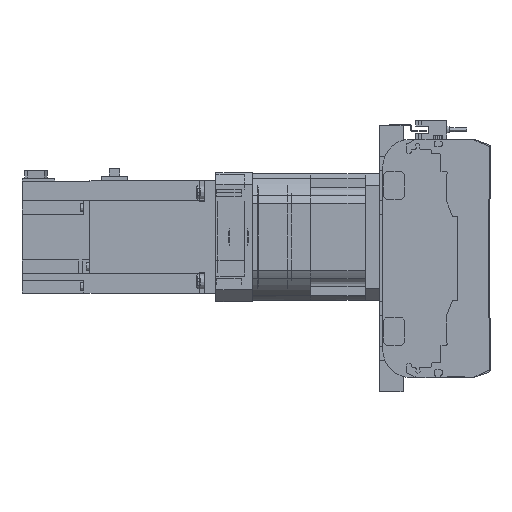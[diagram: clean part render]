
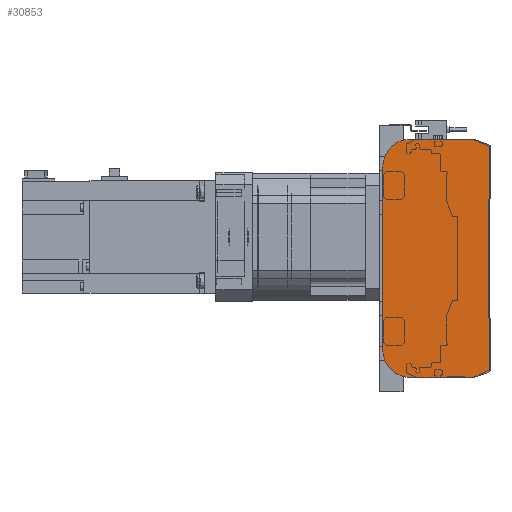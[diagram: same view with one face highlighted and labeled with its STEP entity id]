
A CAD part, left-side view. The second image highlights one B-rep face of the part: STEP entity #30853.
In plain terms, the highlighted planar face has unit normal (-1, 0, 0).
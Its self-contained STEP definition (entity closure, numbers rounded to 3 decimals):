
#2513=CIRCLE('',#33725,2.);
#2514=CIRCLE('',#33728,2.);
#2515=CIRCLE('',#33731,20.);
#2516=CIRCLE('',#33734,20.);
#8782=ORIENTED_EDGE('',*,*,#15015,.F.);
#8783=ORIENTED_EDGE('',*,*,#15093,.F.);
#8784=ORIENTED_EDGE('',*,*,#15091,.F.);
#8785=ORIENTED_EDGE('',*,*,#15089,.F.);
#8786=ORIENTED_EDGE('',*,*,#14732,.F.);
#8787=ORIENTED_EDGE('',*,*,#15088,.F.);
#8788=ORIENTED_EDGE('',*,*,#15086,.F.);
#8789=ORIENTED_EDGE('',*,*,#15084,.F.);
#8790=ORIENTED_EDGE('',*,*,#15082,.F.);
#8791=ORIENTED_EDGE('',*,*,#15080,.F.);
#14732=EDGE_CURVE('',#18154,#18155,#20732,.T.);
#15015=EDGE_CURVE('',#18226,#18227,#20846,.T.);
#15080=EDGE_CURVE('',#18227,#18268,#20891,.T.);
#15082=EDGE_CURVE('',#18268,#18269,#2513,.T.);
#15084=EDGE_CURVE('',#18269,#18270,#20894,.T.);
#15086=EDGE_CURVE('',#18270,#18271,#2514,.T.);
#15088=EDGE_CURVE('',#18271,#18154,#20897,.T.);
#15089=EDGE_CURVE('',#18155,#18272,#2515,.T.);
#15091=EDGE_CURVE('',#18272,#18273,#20899,.T.);
#15093=EDGE_CURVE('',#18273,#18226,#2516,.T.);
#18154=VERTEX_POINT('',#52602);
#18155=VERTEX_POINT('',#52604);
#18226=VERTEX_POINT('',#53010);
#18227=VERTEX_POINT('',#53012);
#18268=VERTEX_POINT('',#53142);
#18269=VERTEX_POINT('',#53146);
#18270=VERTEX_POINT('',#53150);
#18271=VERTEX_POINT('',#53154);
#18272=VERTEX_POINT('',#53160);
#18273=VERTEX_POINT('',#53164);
#20732=LINE('',#52603,#23177);
#20846=LINE('',#53011,#23291);
#20891=LINE('',#53141,#23336);
#20894=LINE('',#53149,#23339);
#20897=LINE('',#53157,#23342);
#20899=LINE('',#53163,#23344);
#23177=VECTOR('',#40751,1000.);
#23291=VECTOR('',#41309,1000.);
#23336=VECTOR('',#41442,1000.);
#23339=VECTOR('',#41451,1000.);
#23342=VECTOR('',#41460,1000.);
#23344=VECTOR('',#41468,1000.);
#25248=EDGE_LOOP('',(#8782,#8783,#8784,#8785,#8786,#8787,#8788,#8789,#8790,
#8791));
#27809=FACE_BOUND('',#25248,.T.);
#29382=PLANE('',#33736);
#30853=ADVANCED_FACE('',(#27809),#29382,.F.);
#33725=AXIS2_PLACEMENT_3D('',#53145,#41446,#41447);
#33728=AXIS2_PLACEMENT_3D('',#53153,#41455,#41456);
#33731=AXIS2_PLACEMENT_3D('',#53159,#41463,#41464);
#33734=AXIS2_PLACEMENT_3D('',#53167,#41472,#41473);
#33736=AXIS2_PLACEMENT_3D('',#53169,#41476,#41477);
#40751=DIRECTION('',(0.,1.,0.));
#41309=DIRECTION('',(0.,-1.,0.));
#41442=DIRECTION('',(0.,-0.913,-0.408));
#41446=DIRECTION('',(1.,0.,0.));
#41447=DIRECTION('',(0.,0.,-1.));
#41451=DIRECTION('',(0.,0.,-1.));
#41455=DIRECTION('',(1.,0.,0.));
#41456=DIRECTION('',(0.,0.,-1.));
#41460=DIRECTION('',(0.,0.913,-0.408));
#41463=DIRECTION('',(1.,0.,0.));
#41464=DIRECTION('',(0.,0.,-1.));
#41468=DIRECTION('',(0.,0.,1.));
#41472=DIRECTION('',(1.,0.,0.));
#41473=DIRECTION('',(0.,0.,-1.));
#41476=DIRECTION('',(1.,0.,0.));
#41477=DIRECTION('',(0.,0.,-1.));
#52602=CARTESIAN_POINT('',(0.,12.33,-85.));
#52603=CARTESIAN_POINT('',(0.,12.33,-85.));
#52604=CARTESIAN_POINT('',(0.,56.5,-85.));
#53010=CARTESIAN_POINT('',(0.,56.5,85.));
#53011=CARTESIAN_POINT('',(0.,56.5,85.));
#53012=CARTESIAN_POINT('',(0.,12.33,85.));
#53141=CARTESIAN_POINT('',(0.,12.33,85.));
#53142=CARTESIAN_POINT('',(0.,1.684,80.239));
#53145=CARTESIAN_POINT('',(0.,2.5,78.413));
#53146=CARTESIAN_POINT('',(0.,0.5,78.413));
#53149=CARTESIAN_POINT('',(0.,0.5,78.413));
#53150=CARTESIAN_POINT('',(0.,0.5,-78.413));
#53153=CARTESIAN_POINT('',(0.,2.5,-78.413));
#53154=CARTESIAN_POINT('',(0.,1.684,-80.239));
#53157=CARTESIAN_POINT('',(0.,1.684,-80.239));
#53159=CARTESIAN_POINT('',(0.,56.5,-65.));
#53160=CARTESIAN_POINT('',(0.,76.5,-65.));
#53163=CARTESIAN_POINT('',(0.,76.5,-65.));
#53164=CARTESIAN_POINT('',(0.,76.5,65.));
#53167=CARTESIAN_POINT('',(0.,56.5,65.));
#53169=CARTESIAN_POINT('',(0.,2.5,78.413));
